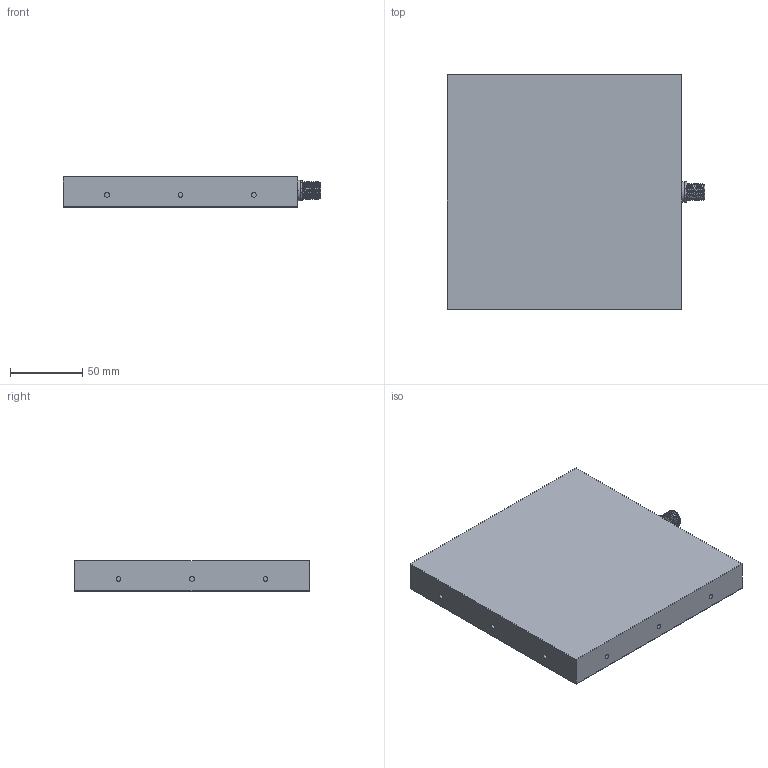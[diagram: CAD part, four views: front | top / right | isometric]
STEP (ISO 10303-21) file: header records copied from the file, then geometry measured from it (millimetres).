
FILE_DESCRIPTION (( 'STEP AP214' ), '1' );
FILE_NAME ('CSBACKII-xxxx-xxx_CLIENT1515.STEP', '2022-04-01T09:18:39', ( '' ), ( '' ), 'SwSTEP 2.0', 'SolidWorks 2020', '' );
FILE_SCHEMA (( 'AUTOMOTIVE_DESIGN' ));
Length unit declared in the file: millimetre
Products named in the file (1): CSBACKII-xxxx-xxx_CLIENT1515
Bounding box: 179 x 163 x 21.06 mm (x, y, z)
Volume: 560378.8 mm3; surface area: 68674.7 mm2
Topology: 1 solids, 2 shells, 328 faces, 819 edges, 538 vertices
Faces by surface type: plane 172, bspline 83, cylinder 65, torus 8
Entity records: 15314 total; most frequent: CARTESIAN_POINT 8015, ORIENTED_EDGE 1638, DIRECTION 1235, EDGE_CURVE 819, VERTEX_POINT 538, VECTOR 479, LINE 479, AXIS2_PLACEMENT_3D 378
